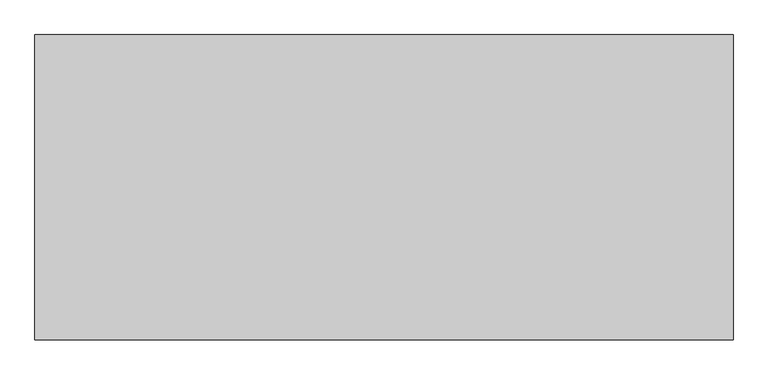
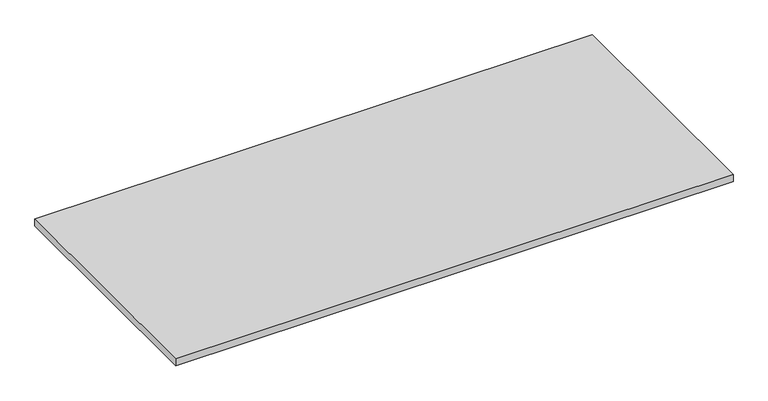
"""IFC4 building model written with IfcOpenShell, lengths in millimetres: proxy geometry, ELEVATE^ADMIN_42x96x1.25-FRONT WALL."""

from ifc_helpers import new_model, si_unit, origin, origin_with_axes, place, context, project, spatial, polyline, outline, extrude, source, transform, mapped, element, save


def generic_models_2158f98c(model_context):
    return source(origin(), model_context, "Body", "SweptSolid", [
        extrude(outline(polyline([(2438.4, 1066.8), (2438.4, 0.0), (0.0, 0.0), (0.0, 1066.8), (2438.4, 1066.8)])), origin_with_axes(), (0.0, 0.0, 1.0), 31.75),
    ])


if __name__ == "__main__":
    model = new_model("IFC4")
    model_context = context("Model", 3, world=origin())
    ifc_project = project(units=[si_unit("LENGTHUNIT", "METRE", prefix="MILLI")], contexts=[model_context])
    site = spatial("IfcSite", under=ifc_project)
    building = spatial("IfcBuilding", under=site)
    placement = place(None, origin())
    generic_models_shape = generic_models_2158f98c(model_context)
    element("IfcBuildingElementProxy", 1, Name="ELEVATE^ADMIN_42x96x1.25-FRONT WALL", ObjectType="ELEVATE^ADMIN_42x96x1.25-FRONT WALL", at=placement, inside=building, context=model_context, shape_type="MappedRepresentation", body=[
        mapped(generic_models_shape, transform((0.0, 0.0, 0.0), x_axis=(1.0, 0.0, 0.0), y_axis=(0.0, 1.0, 0.0), z_axis=(0.0, 0.0, 1.0))),
    ])
    save(model, "model.ifc")
